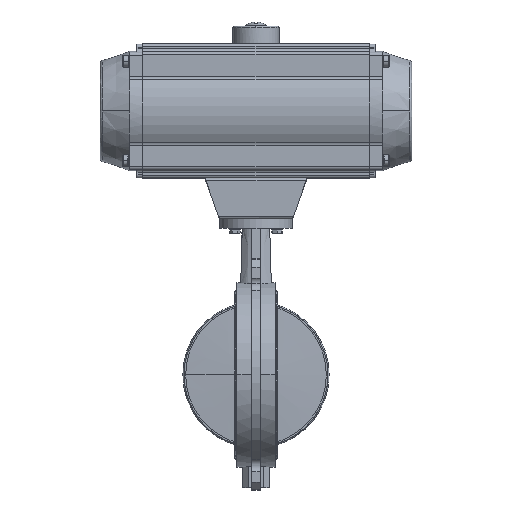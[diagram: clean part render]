
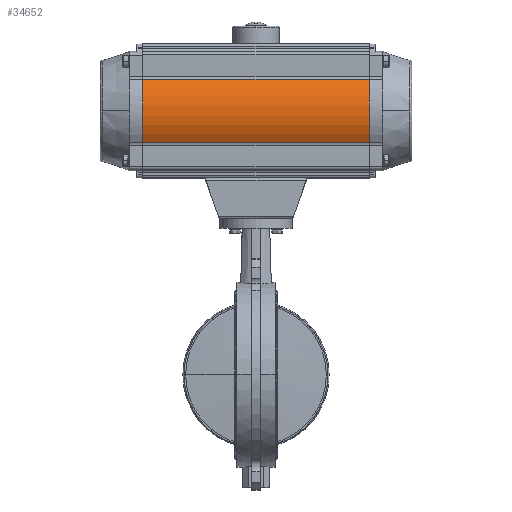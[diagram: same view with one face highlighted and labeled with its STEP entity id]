
A CAD part, top view. The second image highlights one B-rep face of the part: STEP entity #34652.
In plain terms, the highlighted cylindrical face has radius 103 mm (diameter 206 mm), a partial arc.
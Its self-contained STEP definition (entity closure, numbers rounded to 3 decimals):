
#1188 = ORIENTED_EDGE ( 'NONE', *, *, #56041, .F. ) ;
#1430 = CIRCLE ( 'NONE', #63997, 103. ) ;
#2172 = CARTESIAN_POINT ( 'NONE',  ( -194., 452., 0. ) ) ;
#2899 = CARTESIAN_POINT ( 'NONE',  ( 194., 452., 0. ) ) ;
#3455 = CARTESIAN_POINT ( 'NONE',  ( -194., 452., 0. ) ) ;
#9401 = CARTESIAN_POINT ( 'NONE',  ( 194., 506.332, 87.504 ) ) ;
#10084 = VERTEX_POINT ( 'NONE', #9401 ) ;
#10911 = DIRECTION ( 'NONE',  ( 1., 0., 0. ) ) ;
#11668 = CARTESIAN_POINT ( 'NONE',  ( -699.797, 397.668, 87.504 ) ) ;
#14358 = VERTEX_POINT ( 'NONE', #26128 ) ;
#14980 = DIRECTION ( 'NONE',  ( 0., 0., -1. ) ) ;
#16104 = CIRCLE ( 'NONE', #43824, 103. ) ;
#18766 = CARTESIAN_POINT ( 'NONE',  ( -194., 506.332, 87.504 ) ) ;
#20249 = DIRECTION ( 'NONE',  ( 0., 0., -1. ) ) ;
#20446 = DIRECTION ( 'NONE',  ( 0., 0., -1. ) ) ;
#22204 = LINE ( 'NONE', #11668, #54340 ) ;
#23701 = ORIENTED_EDGE ( 'NONE', *, *, #50748, .F. ) ;
#24389 = VERTEX_POINT ( 'NONE', #36378 ) ;
#26128 = CARTESIAN_POINT ( 'NONE',  ( 194., 397.668, 87.504 ) ) ;
#34652 = ADVANCED_FACE ( 'NONE', ( #63157 ), #34929, .F. ) ;
#34929 = CYLINDRICAL_SURFACE ( 'NONE', #57833, 103. ) ;
#35091 = EDGE_LOOP ( 'NONE', ( #56909, #70442, #23701, #1188 ) ) ;
#36378 = CARTESIAN_POINT ( 'NONE',  ( -194., 397.668, 87.504 ) ) ;
#37005 = VECTOR ( 'NONE', #62211, 1000. ) ;
#37186 = EDGE_CURVE ( 'NONE', #24389, #14358, #22204, .T. ) ;
#39199 = LINE ( 'NONE', #62583, #37005 ) ;
#43824 = AXIS2_PLACEMENT_3D ( 'NONE', #2172, #71138, #20249 ) ;
#47852 = VERTEX_POINT ( 'NONE', #18766 ) ;
#48456 = EDGE_CURVE ( 'NONE', #10084, #14358, #1430, .T. ) ;
#50748 = EDGE_CURVE ( 'NONE', #47852, #24389, #16104, .T. ) ;
#54340 = VECTOR ( 'NONE', #10911, 1000. ) ;
#56041 = EDGE_CURVE ( 'NONE', #10084, #47852, #39199, .T. ) ;
#56909 = ORIENTED_EDGE ( 'NONE', *, *, #48456, .T. ) ;
#57833 = AXIS2_PLACEMENT_3D ( 'NONE', #3455, #71702, #20446 ) ;
#62211 = DIRECTION ( 'NONE',  ( -1., 0., 0. ) ) ;
#62583 = CARTESIAN_POINT ( 'NONE',  ( -194., 506.332, 87.504 ) ) ;
#63157 = FACE_OUTER_BOUND ( 'NONE', #35091, .T. ) ;
#63997 = AXIS2_PLACEMENT_3D ( 'NONE', #2899, #66602, #14980 ) ;
#66602 = DIRECTION ( 'NONE',  ( 1., 0., 0. ) ) ;
#70442 = ORIENTED_EDGE ( 'NONE', *, *, #37186, .F. ) ;
#71138 = DIRECTION ( 'NONE',  ( 1., 0., 0. ) ) ;
#71702 = DIRECTION ( 'NONE',  ( 1., 0., 0. ) ) ;
